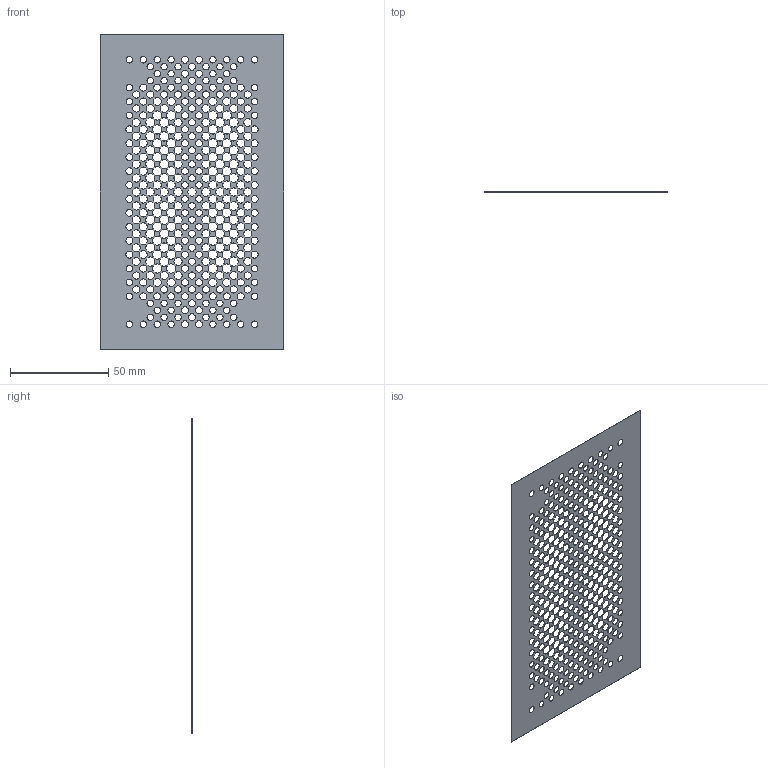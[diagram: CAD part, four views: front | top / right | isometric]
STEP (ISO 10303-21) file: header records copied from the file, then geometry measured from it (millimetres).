
FILE_DESCRIPTION (( 'STEP AP214' ), '1' );
FILE_NAME ('StencilMask(MBM200H45E2).STEP', '2017-08-23T05:00:38', ( 'Flora110' ), ( '' ), 'SwSTEP 2.0', 'SolidWorks 2010', '' );
FILE_SCHEMA (( 'AUTOMOTIVE_DESIGN' ));
Length unit declared in the file: millimetre
Products named in the file (1): StencilMask(MBM200H45E2)
Bounding box: 93 x 0.15 x 160 mm (x, y, z)
Volume: 1602.1 mm3; surface area: 22088.4 mm2
Topology: 1 solids, 1 shells, 2426 faces, 7272 edges, 4848 vertices
Faces by surface type: cylinder 1240, plane 1186
Full cylindrical faces by diameter (mm): 3.3 x60
Entity records: 83650 total; most frequent: DIRECTION 14546, CARTESIAN_POINT 14487, ORIENTED_EDGE 14424, EDGE_CURVE 7212, AXIS2_PLACEMENT_3D 4907, VERTEX_POINT 4848, LINE 4732, VECTOR 4732
